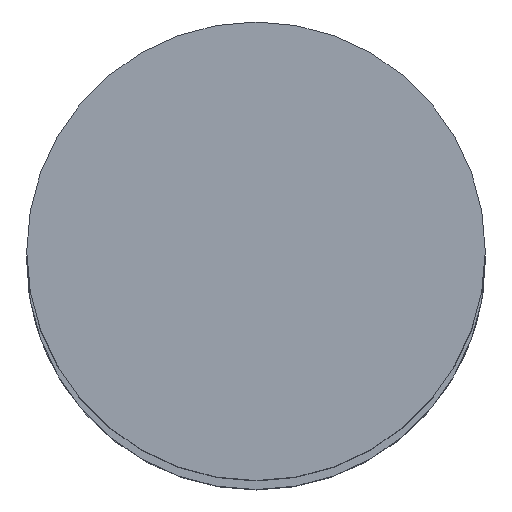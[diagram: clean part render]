
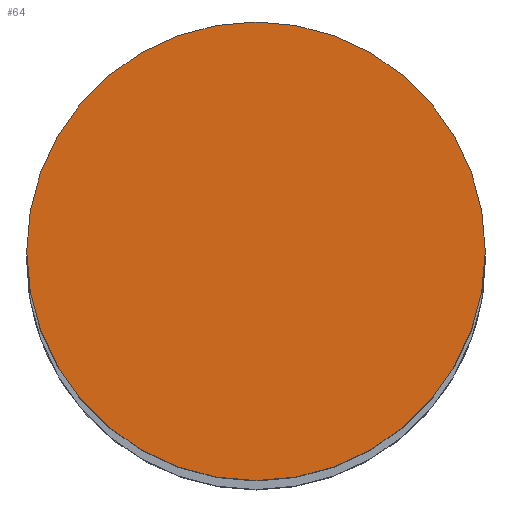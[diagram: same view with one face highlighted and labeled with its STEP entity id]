
A CAD part, top view. The second image highlights one B-rep face of the part: STEP entity #64.
In plain terms, the highlighted planar face has unit normal (0, 0, 1).
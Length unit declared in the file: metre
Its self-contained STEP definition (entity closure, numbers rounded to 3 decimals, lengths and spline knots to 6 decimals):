
#64=ADVANCED_FACE('25:217',(#136),#137,.T.);
#136=FACE_OUTER_BOUND('',#225,.T.);
#137=PLANE('',#226);
#225=EDGE_LOOP('',(#317,#318));
#226=AXIS2_PLACEMENT_3D('',#319,#320,#321);
#317=ORIENTED_EDGE('',*,*,#496,.F.);
#318=ORIENTED_EDGE('',*,*,#497,.F.);
#319=CARTESIAN_POINT('',(0.0,0.0,3.014));
#320=DIRECTION('',(0.0,0.0,1.0));
#321=DIRECTION('',(1.0,0.0,0.0));
#496=EDGE_CURVE('',#583,#584,#585,.F.);
#497=EDGE_CURVE('',#584,#583,#586,.F.);
#583=VERTEX_POINT('',#708);
#584=VERTEX_POINT('',#709);
#585=CIRCLE('',#710,0.0155);
#586=CIRCLE('',#711,0.0155);
#708=CARTESIAN_POINT('',(-0.015592,0.000095,3.014));
#709=CARTESIAN_POINT('',(0.015408,0.000095,3.014));
#710=AXIS2_PLACEMENT_3D('',#839,#840,#841);
#711=AXIS2_PLACEMENT_3D('',#842,#843,#844);
#839=CARTESIAN_POINT('',(-0.000092,0.000095,3.014));
#840=DIRECTION('',(0.0,0.0,1.0));
#841=DIRECTION('',(1.0,0.0,0.0));
#842=CARTESIAN_POINT('',(-0.000092,0.000095,3.014));
#843=DIRECTION('',(0.0,0.0,1.0));
#844=DIRECTION('',(1.0,0.0,0.0));
